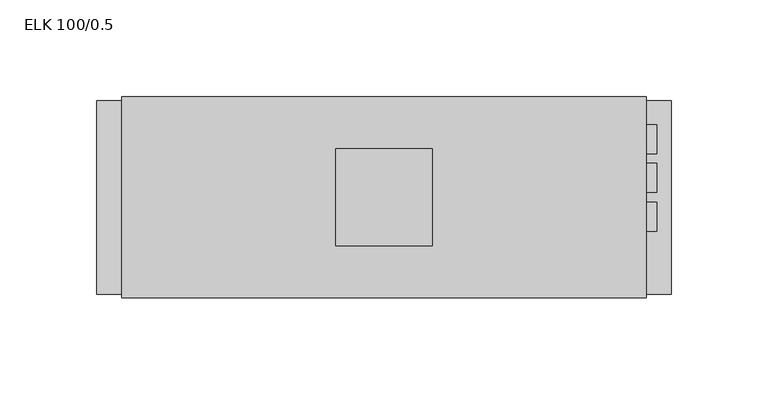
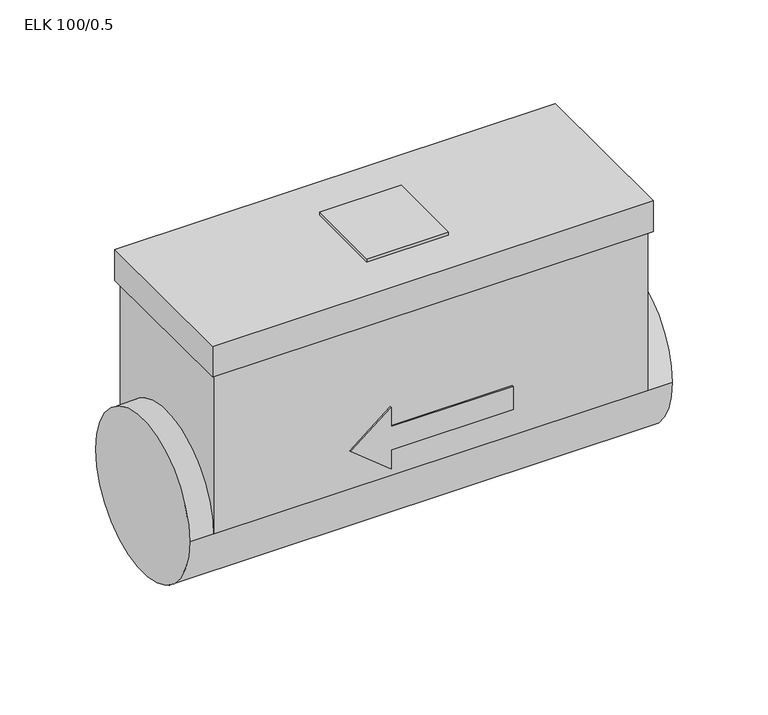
"""IFC4 building model written with IfcOpenShell, lengths in millimetres: proxy geometry, KORF_Нагреватель_Электрический_Круглый_ELK : ELK 100/0.5."""

from ifc_helpers import new_model, si_unit, point, frame, frame_2d, origin, place, context, project, spatial, polyline, circle_curve, trimmed, segment, composite_curve, outline, extrude, source, transform, mapped, element, save
from ifc_brep_helpers import plane_surface, cylinder_surface, advanced_brep


def elk_100_0_5_84166f37(model_context):
    return source(origin(), model_context, "Body", "SolidModel", [
        extrude(outline(polyline([(173.5, 25.0), (173.5, -25.0), (123.5, -25.0), (123.5, 25.0), (173.5, 25.0)])), frame((0.0, 0.0, 124.0), z_axis=(0.0, 0.0, 1.0), x_axis=(1.0, 0.0, 0.0)), (0.0, 0.0, 1.0), 2.0),
        extrude(outline(composite_curve([segment(trimmed(circle_curve(frame_2d((-10.0, 84.0)), 7.5), [point((-17.5, 84.0))], [point((-2.5, 84.0))], False, "CARTESIAN"), True, "CONTINUOUS"), segment(trimmed(circle_curve(frame_2d((-10.0, 84.0)), 7.5), [point((-2.5, 84.0))], [point((-17.5, 84.0))], False, "CARTESIAN"), True, "CONTINUOUS")], self_intersect=False)), frame((282.0, 0.0, 0.0), z_axis=(1.0, 0.0, 0.0), x_axis=(0.0, 1.0, 0.0)), (0.0, 0.0, 1.0), 7.5),
        extrude(outline(composite_curve([segment(trimmed(circle_curve(frame_2d((10.0, 84.0)), 7.5), [point((2.5, 84.0))], [point((17.5, 84.0))], False, "CARTESIAN"), True, "CONTINUOUS"), segment(trimmed(circle_curve(frame_2d((10.0, 84.0)), 7.5), [point((17.5, 84.0))], [point((2.5, 84.0))], False, "CARTESIAN"), True, "CONTINUOUS")], self_intersect=False)), frame((282.0, 0.0, 0.0), z_axis=(1.0, 0.0, 0.0), x_axis=(0.0, 1.0, 0.0)), (0.0, 0.0, 1.0), 7.5),
        extrude(outline(composite_curve([segment(trimmed(circle_curve(frame_2d((30.0, 84.0)), 7.5), [point((22.5, 84.0))], [point((37.5, 84.0))], False, "CARTESIAN"), True, "CONTINUOUS"), segment(trimmed(circle_curve(frame_2d((30.0, 84.0)), 7.5), [point((37.5, 84.0))], [point((22.5, 84.0))], False, "CARTESIAN"), True, "CONTINUOUS")], self_intersect=False)), frame((282.0, 0.0, 0.0), z_axis=(1.0, 0.0, 0.0), x_axis=(0.0, 1.0, 0.0)), (0.0, 0.0, 1.0), 7.5),
        advanced_brep(
        [(284.0, 52.0, 104.0), (284.0, -52.0, 104.0), (13.0, -52.0, 104.0), (13.0, 52.0, 104.0), (282.0, 50.0, 104.0), (15.0, 50.0, 104.0), (15.0, -50.0, 104.0), (282.0, -50.0, 104.0), (284.0, 52.0, 124.0), (13.0, 52.0, 124.0), (13.0, -52.0, 124.0), (284.0, -52.0, 124.0), (282.0, 50.0, 0.0), (15.0, 50.0, 0.0), (123.5, 50.0, 45.0), (98.5, 50.0, 25.0), (123.5, 50.0, 5.0), (123.5, 50.0, 17.5), (198.5, 50.0, 17.5), (198.5, 50.0, 32.5), (123.5, 50.0, 32.5), (15.0, -50.0, 0.0), (282.0, -50.0, 0.0), (98.5, -50.0, 25.0), (123.5, -50.0, 45.0), (123.5, -50.0, 32.5), (198.5, -50.0, 32.5), (198.5, -50.0, 17.5), (123.5, -50.0, 17.5), (123.5, -50.0, 5.0), (297.0, -50.0, 0.0), (297.0, 50.0, 0.0), (0.0, -50.0, 0.0), (0.0, 50.0, 0.0), (123.5, -51.0, 45.0), (98.5, -51.0, 25.0), (123.5, -51.0, 5.0), (123.5, -51.0, 17.5), (198.5, -51.0, 17.5), (198.5, -51.0, 32.5), (123.5, -51.0, 32.5), (123.5, 51.0, 45.0), (123.5, 51.0, 32.5), (198.5, 51.0, 32.5), (198.5, 51.0, 17.5), (123.5, 51.0, 17.5), (123.5, 51.0, 5.0), (98.5, 51.0, 25.0)],
        [
            (0, 1),
            (1, 2),
            (2, 3),
            (3, 0),
            (4, 5),
            (5, 6),
            (6, 7),
            (7, 4),
            (8, 9),
            (9, 10),
            (10, 11),
            (11, 8),
            (3, 9),
            (8, 0),
            (2, 10),
            (1, 11),
            (4, 12),
            (12, 13),
            (13, 5),
            (14, 15),
            (15, 16),
            (16, 17),
            (17, 18),
            (18, 19),
            (19, 20),
            (20, 14),
            (13, 21, circle_curve(frame((15.0, 0.0, 0.0), z_axis=(1.0, 0.0, 0.0), x_axis=(0.0, 1.0, 0.0)), 50.0)),
            (21, 6),
            (21, 22),
            (22, 7),
            (23, 24),
            (24, 25),
            (25, 26),
            (26, 27),
            (27, 28),
            (28, 29),
            (29, 23),
            (22, 12, circle_curve(frame((282.0, 0.0, 0.0), z_axis=(-1.0, 0.0, 0.0), x_axis=(0.0, 1.0, 0.0)), 50.0)),
            (30, 31, circle_curve(frame((297.0, 0.0, 0.0), z_axis=(1.0, 0.0, 0.0), x_axis=(0.0, 1.0, 0.0)), 50.0)),
            (31, 30, circle_curve(frame((297.0, 0.0, 0.0), z_axis=(1.0, 0.0, 0.0), x_axis=(0.0, 1.0, 0.0)), 50.0)),
            (32, 33, circle_curve(frame((0.0, 0.0, 0.0), z_axis=(-1.0, 0.0, 0.0), x_axis=(0.0, 1.0, 0.0)), 50.0)),
            (33, 32, circle_curve(frame((0.0, 0.0, 0.0), z_axis=(-1.0, 0.0, 0.0), x_axis=(0.0, 1.0, 0.0)), 50.0)),
            (30, 22),
            (21, 32),
            (33, 13),
            (12, 31),
            (34, 35),
            (35, 36),
            (36, 37),
            (37, 38),
            (38, 39),
            (39, 40),
            (40, 34),
            (41, 42),
            (42, 43),
            (43, 44),
            (44, 45),
            (45, 46),
            (46, 47),
            (47, 41),
            (34, 24),
            (23, 35),
            (47, 15),
            (14, 41),
            (29, 36),
            (46, 16),
            (28, 37),
            (45, 17),
            (27, 38),
            (44, 18),
            (26, 39),
            (43, 19),
            (25, 40),
            (42, 20),
        ],
        [
            plane_surface(frame((13.0, 52.0, 104.0), z_axis=(0.0, 0.0, -1.0), x_axis=(1.0, 0.0, 0.0))),
            plane_surface(frame((13.0, 52.0, 124.0), z_axis=(0.0, 0.0, 1.0), x_axis=(-1.0, 0.0, 0.0))),
            plane_surface(frame((284.0, 52.0, 124.0), z_axis=(0.0, 1.0, 0.0), x_axis=(0.0, 0.0, -1.0))),
            plane_surface(frame((13.0, 52.0, 124.0), z_axis=(-1.0, 0.0, 0.0), x_axis=(0.0, 0.0, -1.0))),
            plane_surface(frame((13.0, -52.0, 124.0), z_axis=(0.0, -1.0, 0.0), x_axis=(0.0, 0.0, -1.0))),
            plane_surface(frame((284.0, -52.0, 124.0), z_axis=(1.0, 0.0, 0.0), x_axis=(0.0, 0.0, -1.0))),
            plane_surface(frame((282.0, 50.0, 124.0), z_axis=(0.0, 1.0, 0.0), x_axis=(0.0, 0.0, -1.0))),
            plane_surface(frame((15.0, 50.0, 124.0), z_axis=(-1.0, 0.0, 0.0), x_axis=(0.0, 0.0, -1.0))),
            plane_surface(frame((15.0, -50.0, 124.0), z_axis=(0.0, -1.0, 0.0), x_axis=(0.0, 0.0, -1.0))),
            plane_surface(frame((282.0, -50.0, 124.0), z_axis=(1.0, 0.0, 0.0), x_axis=(0.0, 0.0, -1.0))),
            plane_surface(frame((297.0, 50.0, 0.0), z_axis=(1.0, 0.0, 0.0), x_axis=(0.0, 0.0, 1.0))),
            plane_surface(frame((0.0, 50.0, 0.0), z_axis=(-1.0, 0.0, 0.0), x_axis=(0.0, 0.0, -1.0))),
            cylinder_surface(frame((0.0, 0.0, 0.0), z_axis=(1.0, 0.0, 0.0), x_axis=(0.0, 1.0, 0.0)), 50.0),
            plane_surface(frame((98.5, -51.0, 25.0), z_axis=(0.0, -1.0, 0.0), x_axis=(-0.7808688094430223, 0.0, -0.6246950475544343))),
            plane_surface(frame((98.5, 51.0, 25.0), z_axis=(0.0, 1.0, 0.0), x_axis=(0.7808688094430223, 0.0, 0.6246950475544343))),
            plane_surface(frame((123.5, -51.0, 45.0), z_axis=(-0.6246950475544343, 0.0, 0.7808688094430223), x_axis=(0.0, 1.0, 0.0))),
            plane_surface(frame((98.5, -51.0, 25.0), z_axis=(-0.6246950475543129, 0.0, -0.7808688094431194), x_axis=(0.0, 1.0, 0.0))),
            plane_surface(frame((123.5, -51.0, 5.0), z_axis=(1.0, 0.0, 0.0), x_axis=(0.0, 1.0, 0.0))),
            plane_surface(frame((123.5, -51.0, 17.5), z_axis=(0.0, 0.0, -1.0), x_axis=(0.0, 1.0, 0.0))),
            plane_surface(frame((198.5, -51.0, 17.5), z_axis=(1.0, 0.0, 0.0), x_axis=(0.0, 1.0, 0.0))),
            plane_surface(frame((198.5, -51.0, 32.5), z_axis=(0.0, 0.0, 1.0), x_axis=(0.0, 1.0, 0.0))),
            plane_surface(frame((123.5, -51.0, 32.5), z_axis=(1.0, 0.0, 0.0), x_axis=(0.0, 1.0, 0.0))),
        ],
        [
            (0, [[1, 2, 3, 4], [5, 6, 7, 8]]),
            (1, [[9, 10, 11, 12]]),
            (2, [[-4, 13, -9, 14]]),
            (3, [[-3, 15, -10, -13]]),
            (4, [[-2, 16, -11, -15]]),
            (5, [[-1, -14, -12, -16]]),
            (6, [[17, 18, 19, -5], [20, 21, 22, 23, 24, 25, 26]]),
            (7, [[-19, 27, 28, -6]]),
            (8, [[-28, 29, 30, -7], [31, 32, 33, 34, 35, 36, 37]]),
            (9, [[-17, -8, -30, 38]]),
            (10, [[39, 40]]),
            (11, [[41, 42]]),
            (12, [[-39, 43, -29, 44, -42, 45, -18, 46]]),
            (12, [[-40, -46, -38, -43]]),
            (12, [[-41, -44, -27, -45]]),
            (13, [[47, 48, 49, 50, 51, 52, 53]]),
            (14, [[54, 55, 56, 57, 58, 59, 60]]),
            (15, [[-47, 61, -31, 62]]),
            (15, [[-60, 63, -20, 64]]),
            (16, [[-48, -62, -37, 65]]),
            (16, [[-59, 66, -21, -63]]),
            (17, [[-49, -65, -36, 67]]),
            (17, [[-58, 68, -22, -66]]),
            (18, [[-50, -67, -35, 69]]),
            (18, [[-57, 70, -23, -68]]),
            (19, [[-51, -69, -34, 71]]),
            (19, [[-56, 72, -24, -70]]),
            (20, [[-52, -71, -33, 73]]),
            (20, [[-55, 74, -25, -72]]),
            (21, [[-53, -73, -32, -61]]),
            (21, [[-54, -64, -26, -74]]),
        ],
    ),
    ])


if __name__ == "__main__":
    model = new_model("IFC4")
    model_context = context("Model", 3, world=origin())
    ifc_project = project(units=[si_unit("LENGTHUNIT", "METRE", prefix="MILLI")], contexts=[model_context])
    site = spatial("IfcSite", under=ifc_project)
    building = spatial("IfcBuilding", under=site)
    placement = place(None, origin())
    elk_100_0_5_shape = elk_100_0_5_84166f37(model_context)
    element("IfcBuildingElementProxy", 1, Name="KORF_Нагреватель_Электрический_Круглый_ELK : ELK 100/0.5", ObjectType="KORF_Нагреватель_Электрический_Круглый_ELK : ELK 100/0.5", at=placement, inside=building, context=model_context, shape_type="MappedRepresentation", body=[
        mapped(elk_100_0_5_shape, transform((0.0, 0.0, 0.0), x_axis=(1.0, 0.0, 0.0), y_axis=(0.0, 1.0, 0.0), z_axis=(0.0, 0.0, 1.0))),
    ])
    save(model, "model.ifc")
